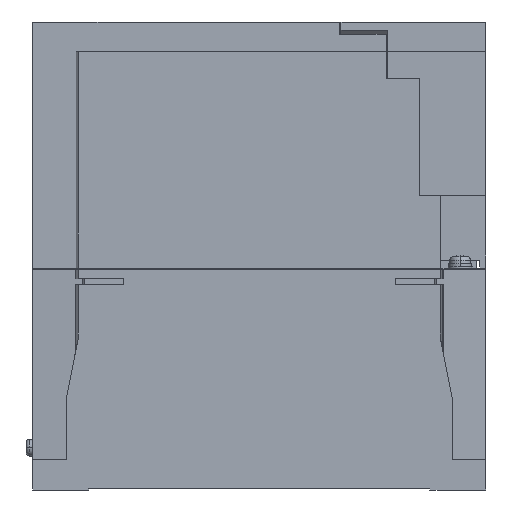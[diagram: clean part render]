
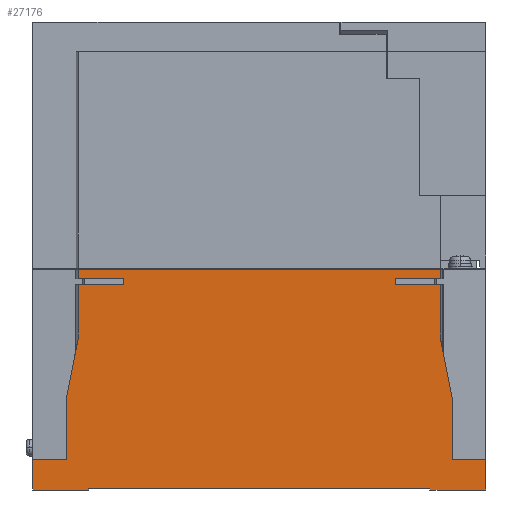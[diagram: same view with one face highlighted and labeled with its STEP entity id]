
A CAD part, left-side view. The second image highlights one B-rep face of the part: STEP entity #27176.
In plain terms, the highlighted planar face has unit normal (-1, 0, 0).
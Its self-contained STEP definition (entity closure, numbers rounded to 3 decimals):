
#93=DIRECTION('',(0.,-1.,0.));
#94=VECTOR('',#93,120.);
#95=CARTESIAN_POINT('',(-110.,135.,0.));
#96=LINE('',#95,#94);
#7278=DIRECTION('',(0.,0.,-1.));
#7279=VECTOR('',#7278,18.);
#7280=CARTESIAN_POINT('',(-110.,15.,-5.));
#7281=LINE('',#7280,#7279);
#7282=DIRECTION('',(0.,0.196,0.981));
#7283=VECTOR('',#7282,20.396);
#7284=CARTESIAN_POINT('',(-110.,11.,-43.));
#7285=LINE('',#7284,#7283);
#7286=DIRECTION('',(0.,0.,1.));
#7287=VECTOR('',#7286,20.);
#7288=CARTESIAN_POINT('',(-110.,11.,-63.));
#7289=LINE('',#7288,#7287);
#7290=DIRECTION('',(0.,-1.,0.));
#7291=VECTOR('',#7290,11.);
#7292=CARTESIAN_POINT('',(-110.,11.,-63.));
#7293=LINE('',#7292,#7291);
#7294=DIRECTION('',(0.,0.,1.));
#7295=VECTOR('',#7294,0.5);
#7296=CARTESIAN_POINT('',(-110.,18.505,-73.));
#7297=LINE('',#7296,#7295);
#7298=DIRECTION('',(0.,-1.,0.));
#7299=VECTOR('',#7298,112.99);
#7300=CARTESIAN_POINT('',(-110.,131.495,-72.5));
#7301=LINE('',#7300,#7299);
#7302=DIRECTION('',(0.,0.,1.));
#7303=VECTOR('',#7302,0.5);
#7304=CARTESIAN_POINT('',(-110.,131.495,-73.));
#7305=LINE('',#7304,#7303);
#7306=DIRECTION('',(0.,0.,-1.));
#7307=VECTOR('',#7306,10.);
#7308=CARTESIAN_POINT('',(-110.,150.,-63.));
#7309=LINE('',#7308,#7307);
#7310=DIRECTION('',(0.,-1.,0.));
#7311=VECTOR('',#7310,11.);
#7312=CARTESIAN_POINT('',(-110.,150.,-63.));
#7313=LINE('',#7312,#7311);
#7314=DIRECTION('',(0.,0.,-1.));
#7315=VECTOR('',#7314,18.);
#7316=CARTESIAN_POINT('',(-110.,135.,-5.));
#7317=LINE('',#7316,#7315);
#7318=DIRECTION('',(0.,1.,0.));
#7319=VECTOR('',#7318,15.);
#7320=CARTESIAN_POINT('',(-110.,120.,-5.));
#7321=LINE('',#7320,#7319);
#7322=DIRECTION('',(0.,0.,1.));
#7323=VECTOR('',#7322,2.);
#7324=CARTESIAN_POINT('',(-110.,120.,-5.));
#7325=LINE('',#7324,#7323);
#7326=DIRECTION('',(0.,1.,0.));
#7327=VECTOR('',#7326,15.);
#7328=CARTESIAN_POINT('',(-110.,120.,-3.));
#7329=LINE('',#7328,#7327);
#7330=DIRECTION('',(0.,0.,-1.));
#7331=VECTOR('',#7330,3.);
#7332=CARTESIAN_POINT('',(-110.,135.,0.));
#7333=LINE('',#7332,#7331);
#7334=DIRECTION('',(0.,0.,-1.));
#7335=VECTOR('',#7334,3.);
#7336=CARTESIAN_POINT('',(-110.,15.,0.));
#7337=LINE('',#7336,#7335);
#7338=DIRECTION('',(0.,1.,0.));
#7339=VECTOR('',#7338,15.);
#7340=CARTESIAN_POINT('',(-110.,15.,-3.));
#7341=LINE('',#7340,#7339);
#7342=DIRECTION('',(0.,0.,1.));
#7343=VECTOR('',#7342,2.);
#7344=CARTESIAN_POINT('',(-110.,30.,-5.));
#7345=LINE('',#7344,#7343);
#7346=DIRECTION('',(0.,1.,0.));
#7347=VECTOR('',#7346,15.);
#7348=CARTESIAN_POINT('',(-110.,15.,-5.));
#7349=LINE('',#7348,#7347);
#7794=DIRECTION('',(0.,-1.,0.));
#7795=VECTOR('',#7794,18.505);
#7796=CARTESIAN_POINT('',(-110.,150.,-73.));
#7797=LINE('',#7796,#7795);
#7845=DIRECTION('',(0.,-1.,0.));
#7846=VECTOR('',#7845,18.505);
#7847=CARTESIAN_POINT('',(-110.,18.505,-73.));
#7848=LINE('',#7847,#7846);
#7926=DIRECTION('',(0.,0.,-1.));
#7927=VECTOR('',#7926,10.);
#7928=CARTESIAN_POINT('',(-110.,0.,-63.));
#7929=LINE('',#7928,#7927);
#8224=DIRECTION('',(0.,0.,1.));
#8225=VECTOR('',#8224,20.);
#8226=CARTESIAN_POINT('',(-110.,139.,-63.));
#8227=LINE('',#8226,#8225);
#8283=DIRECTION('',(0.,-0.196,0.981));
#8284=VECTOR('',#8283,20.396);
#8285=CARTESIAN_POINT('',(-110.,139.,-43.));
#8286=LINE('',#8285,#8284);
#9936=CARTESIAN_POINT('',(-110.,150.,-63.));
#9938=VERTEX_POINT('',#9936);
#9967=CARTESIAN_POINT('',(-110.,0.,-63.));
#9968=VERTEX_POINT('',#9967);
#9983=CARTESIAN_POINT('',(-110.,15.,-3.));
#9984=CARTESIAN_POINT('',(-110.,30.,-3.));
#9985=VERTEX_POINT('',#9983);
#9986=VERTEX_POINT('',#9984);
#9987=CARTESIAN_POINT('',(-110.,15.,-5.));
#9988=CARTESIAN_POINT('',(-110.,30.,-5.));
#9989=VERTEX_POINT('',#9987);
#9990=VERTEX_POINT('',#9988);
#10047=CARTESIAN_POINT('',(-110.,120.,-3.));
#10048=CARTESIAN_POINT('',(-110.,135.,-3.));
#10049=VERTEX_POINT('',#10047);
#10050=VERTEX_POINT('',#10048);
#10051=CARTESIAN_POINT('',(-110.,120.,-5.));
#10052=CARTESIAN_POINT('',(-110.,135.,-5.));
#10053=VERTEX_POINT('',#10051);
#10054=VERTEX_POINT('',#10052);
#10099=CARTESIAN_POINT('',(-110.,139.,-43.));
#10101=VERTEX_POINT('',#10099);
#10103=CARTESIAN_POINT('',(-110.,139.,-63.));
#10104=VERTEX_POINT('',#10103);
#10109=CARTESIAN_POINT('',(-110.,135.,-23.));
#10110=VERTEX_POINT('',#10109);
#10116=CARTESIAN_POINT('',(-110.,11.,-43.));
#10118=VERTEX_POINT('',#10116);
#10123=CARTESIAN_POINT('',(-110.,11.,-63.));
#10124=VERTEX_POINT('',#10123);
#10127=CARTESIAN_POINT('',(-110.,15.,-23.));
#10128=VERTEX_POINT('',#10127);
#10139=CARTESIAN_POINT('',(-110.,135.,0.));
#10141=VERTEX_POINT('',#10139);
#10161=CARTESIAN_POINT('',(-110.,15.,0.));
#10162=VERTEX_POINT('',#10161);
#10187=CARTESIAN_POINT('',(-110.,0.,-73.));
#10188=VERTEX_POINT('',#10187);
#10193=CARTESIAN_POINT('',(-110.,150.,-73.));
#10194=VERTEX_POINT('',#10193);
#10243=CARTESIAN_POINT('',(-110.,131.495,-72.5));
#10244=CARTESIAN_POINT('',(-110.,18.505,-72.5));
#10245=VERTEX_POINT('',#10243);
#10246=VERTEX_POINT('',#10244);
#10247=CARTESIAN_POINT('',(-110.,131.495,-73.));
#10248=VERTEX_POINT('',#10247);
#10249=CARTESIAN_POINT('',(-110.,18.505,-73.));
#10250=VERTEX_POINT('',#10249);
#27125=CARTESIAN_POINT('',(-110.,150.,0.));
#27126=DIRECTION('',(-1.,0.,0.));
#27127=DIRECTION('',(0.,-1.,0.));
#27128=AXIS2_PLACEMENT_3D('',#27125,#27126,#27127);
#27129=PLANE('',#27128);
#27131=ORIENTED_EDGE('',*,*,#27130,.T.);
#27133=ORIENTED_EDGE('',*,*,#27132,.F.);
#27135=ORIENTED_EDGE('',*,*,#27134,.F.);
#27137=ORIENTED_EDGE('',*,*,#27136,.T.);
#27139=ORIENTED_EDGE('',*,*,#27138,.T.);
#27141=ORIENTED_EDGE('',*,*,#27140,.F.);
#27143=ORIENTED_EDGE('',*,*,#27142,.T.);
#27145=ORIENTED_EDGE('',*,*,#27144,.F.);
#27147=ORIENTED_EDGE('',*,*,#27146,.F.);
#27149=ORIENTED_EDGE('',*,*,#27148,.F.);
#27150=ORIENTED_EDGE('',*,*,#13177,.F.);
#27152=ORIENTED_EDGE('',*,*,#27151,.T.);
#27154=ORIENTED_EDGE('',*,*,#27153,.T.);
#27156=ORIENTED_EDGE('',*,*,#27155,.T.);
#27158=ORIENTED_EDGE('',*,*,#27157,.F.);
#27160=ORIENTED_EDGE('',*,*,#27159,.F.);
#27162=ORIENTED_EDGE('',*,*,#27161,.T.);
#27163=ORIENTED_EDGE('',*,*,#27103,.T.);
#27165=ORIENTED_EDGE('',*,*,#27164,.F.);
#27166=ORIENTED_EDGE('',*,*,#12959,.T.);
#27168=ORIENTED_EDGE('',*,*,#27167,.T.);
#27169=ORIENTED_EDGE('',*,*,#27016,.T.);
#27171=ORIENTED_EDGE('',*,*,#27170,.F.);
#27173=ORIENTED_EDGE('',*,*,#27172,.F.);
#27174=EDGE_LOOP('',(#27131,#27133,#27135,#27137,#27139,#27141,#27143,#27145,
#27147,#27149,#27150,#27152,#27154,#27156,#27158,#27160,#27162,#27163,#27165,
#27166,#27168,#27169,#27171,#27173));
#27175=FACE_OUTER_BOUND('',#27174,.F.);
#27176=ADVANCED_FACE('',(#27175),#27129,.T.);
#12959=EDGE_CURVE('',#10141,#10162,#96,.T.);
#13177=EDGE_CURVE('',#9938,#10194,#7309,.T.);
#27016=EDGE_CURVE('',#9985,#9986,#7341,.T.);
#27103=EDGE_CURVE('',#10049,#10050,#7329,.T.);
#27130=EDGE_CURVE('',#9989,#10128,#7281,.T.);
#27132=EDGE_CURVE('',#10118,#10128,#7285,.T.);
#27134=EDGE_CURVE('',#10124,#10118,#7289,.T.);
#27136=EDGE_CURVE('',#10124,#9968,#7293,.T.);
#27138=EDGE_CURVE('',#9968,#10188,#7929,.T.);
#27140=EDGE_CURVE('',#10250,#10188,#7848,.T.);
#27142=EDGE_CURVE('',#10250,#10246,#7297,.T.);
#27144=EDGE_CURVE('',#10245,#10246,#7301,.T.);
#27146=EDGE_CURVE('',#10248,#10245,#7305,.T.);
#27148=EDGE_CURVE('',#10194,#10248,#7797,.T.);
#27151=EDGE_CURVE('',#9938,#10104,#7313,.T.);
#27153=EDGE_CURVE('',#10104,#10101,#8227,.T.);
#27155=EDGE_CURVE('',#10101,#10110,#8286,.T.);
#27157=EDGE_CURVE('',#10054,#10110,#7317,.T.);
#27159=EDGE_CURVE('',#10053,#10054,#7321,.T.);
#27161=EDGE_CURVE('',#10053,#10049,#7325,.T.);
#27164=EDGE_CURVE('',#10141,#10050,#7333,.T.);
#27167=EDGE_CURVE('',#10162,#9985,#7337,.T.);
#27170=EDGE_CURVE('',#9990,#9986,#7345,.T.);
#27172=EDGE_CURVE('',#9989,#9990,#7349,.T.);
